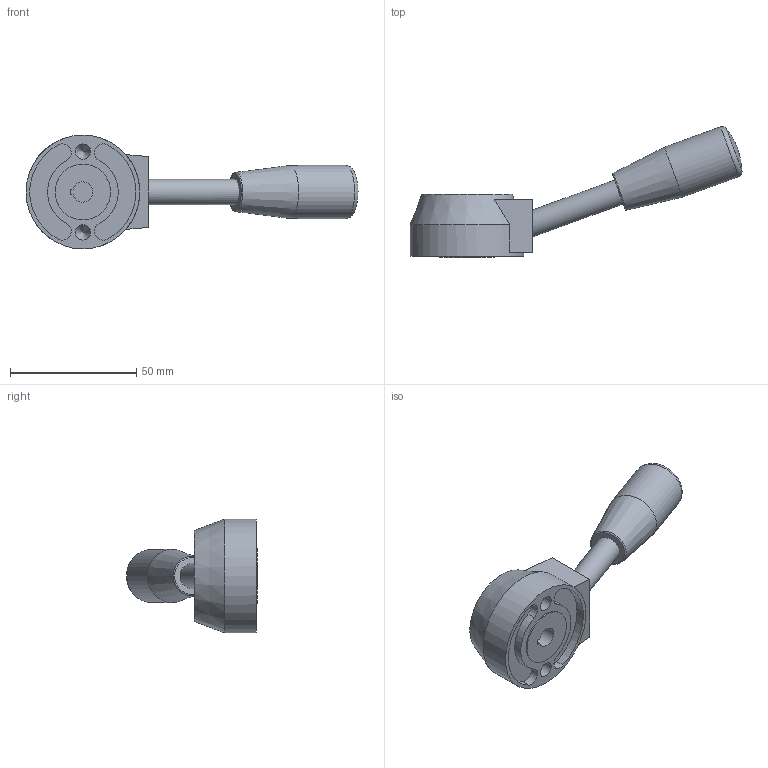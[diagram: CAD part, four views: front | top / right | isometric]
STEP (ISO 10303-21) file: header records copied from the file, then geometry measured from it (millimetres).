
FILE_DESCRIPTION( ( 'STEP AP203' ), '1' );
FILE_NAME( 'C:/Temp/Ganter_Step_05_03_2020/data/2_1/gn_512/gn_512_k/Control lever GN 512-45-K8.stp', '2020-03-05T11:51:39', ( 'License CC BY-ND 4.0' ), ( 'CADENAS' ), ' ', 'PARTsolutions', ' ' );
FILE_SCHEMA( ( 'CONFIG_CONTROL_DESIGN' ) );
Length unit declared in the file: millimetre
Products named in the file (1): _Control lever GN 512-45-K8
Bounding box: 131.34 x 51.82 x 45 mm (x, y, z)
Volume: 52814.9 mm3; surface area: 13193.4 mm2
Topology: 1 solids, 1 shells, 39 faces, 88 edges, 57 vertices
Faces by surface type: plane 16, cylinder 16, cone 4, torus 2, sphere 1
Full cylindrical faces by diameter (mm): 6 x2, 10 x1, 21 x1, 22 x1, 25 x1, 45 x1
Entity records: 1042 total; most frequent: DIRECTION 184, CARTESIAN_POINT 176, ORIENTED_EDGE 136, AXIS2_PLACEMENT_3D 78, EDGE_CURVE 68, EDGE_LOOP 59, VERTEX_POINT 54, FACE_OUTER_BOUND 48
